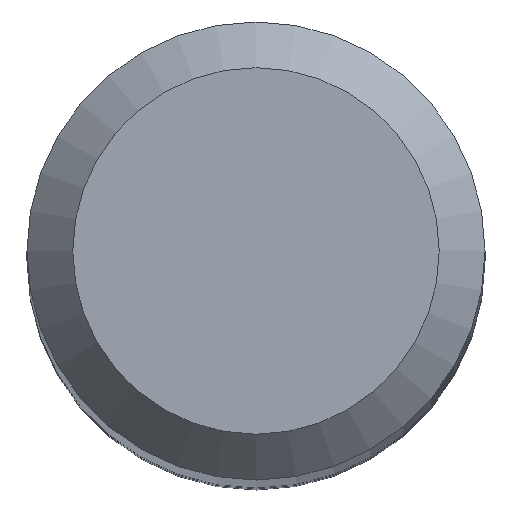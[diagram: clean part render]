
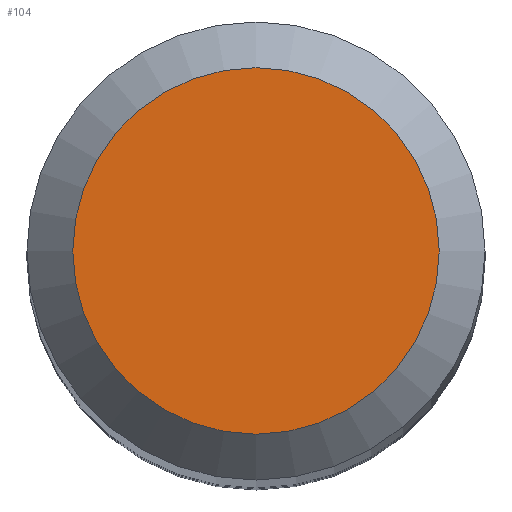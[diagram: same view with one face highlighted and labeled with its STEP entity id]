
A CAD part, top view. The second image highlights one B-rep face of the part: STEP entity #104.
In plain terms, the highlighted planar face has unit normal (0, 0, 1).
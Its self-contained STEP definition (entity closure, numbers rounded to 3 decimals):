
#88=CARTESIAN_POINT('',(4.8,0.0,150.0));
#89=DIRECTION('',(0.0,0.0,1.0));
#90=DIRECTION('',(1.0,0.0,0.0));
#91=AXIS2_PLACEMENT_3D('',#88,#89,#90);
#92=PLANE('',#91);
#93=CARTESIAN_POINT('',(-4.8,0.0,150.0));
#94=VERTEX_POINT('',#93);
#95=CARTESIAN_POINT('',(0.0,0.0,150.0));
#96=DIRECTION('',(0.0,0.0,-1.0));
#97=DIRECTION('',(-1.0,0.0,0.0));
#98=AXIS2_PLACEMENT_3D('',#95,#96,#97);
#99=CIRCLE('',#98,4.8);
#100=EDGE_CURVE('',#94,#94,#99,.T.);
#101=ORIENTED_EDGE('',*,*,#100,.F.);
#102=EDGE_LOOP('',(#101));
#103=FACE_OUTER_BOUND('',#102,.T.);
#104=ADVANCED_FACE('',(#103),#92,.T.);
